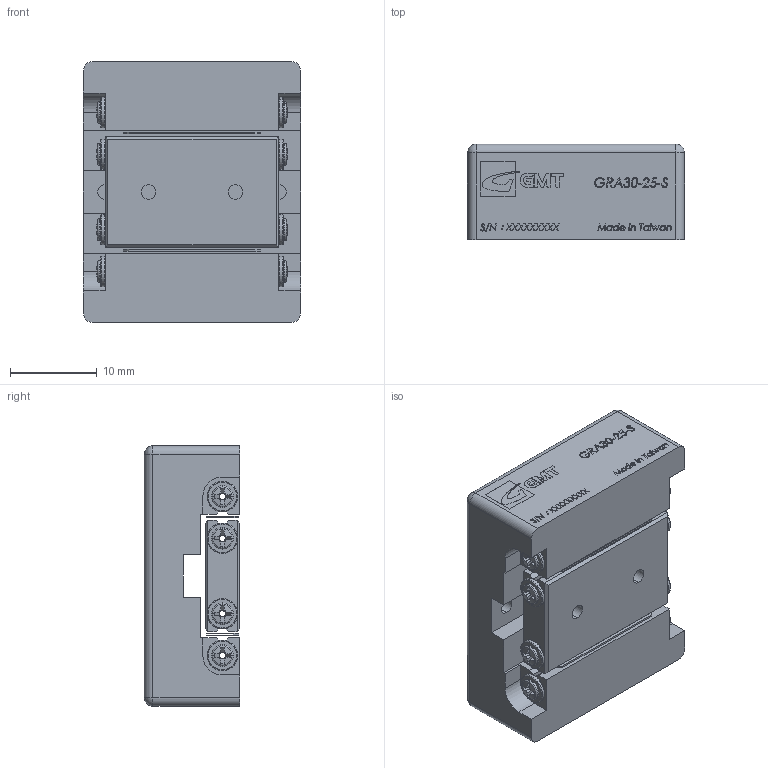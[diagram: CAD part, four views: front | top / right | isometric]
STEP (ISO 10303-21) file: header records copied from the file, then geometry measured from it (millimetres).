
FILE_DESCRIPTION (( 'STEP AP203' ), '1' );
FILE_NAME ('GRA30-25-S.STEP', '2013-12-14T05:28:26', ( '' ), ( '' ), 'SwSTEP 2.0', 'SolidWorks 2013', '' );
FILE_SCHEMA (( 'CONFIG_CONTROL_DESIGN' ));
Length unit declared in the file: millimetre
Products named in the file (1): GRA30-25-S
Bounding box: 25 x 11 x 30 mm (x, y, z)
Surface area: 3893.2 mm2 (no closed solid volume)
Topology: 0 solids, 13 shells, 617 faces, 2432 edges, 1748 vertices
Faces by surface type: plane 353, cylinder 87, bspline 77, torus 48, cone 32, sphere 20
Entity records: 31433 total; most frequent: CARTESIAN_POINT 12191, ORIENTED_EDGE 3728, DIRECTION 3630, EDGE_CURVE 2428, VERTEX_POINT 1748, VECTOR 1496, LINE 1496, AXIS2_PLACEMENT_3D 1067
